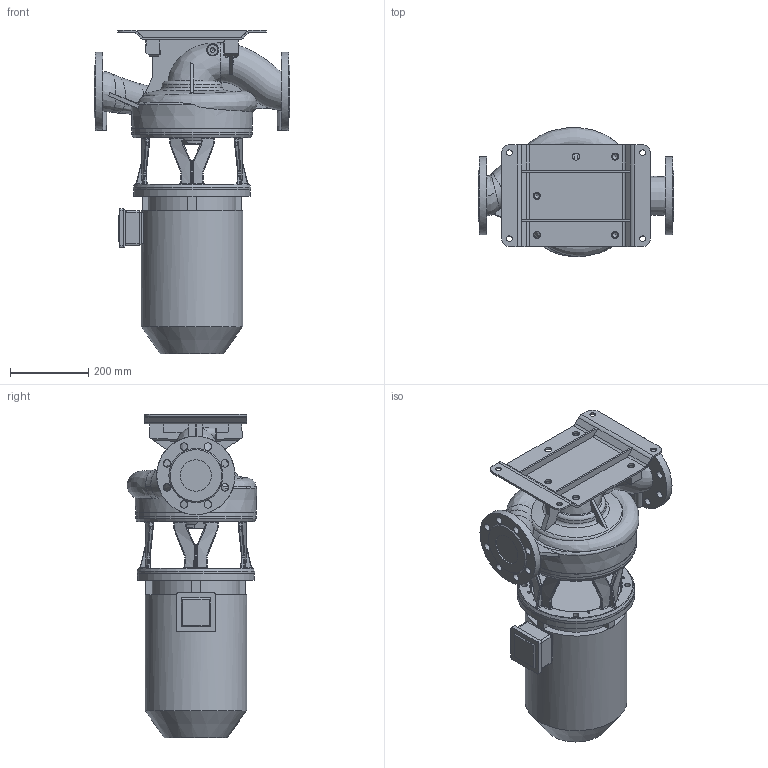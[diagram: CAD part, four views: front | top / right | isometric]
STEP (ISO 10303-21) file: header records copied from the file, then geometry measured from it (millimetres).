
FILE_DESCRIPTION (( 'STEP AP203' ), '1' );
FILE_NAME ('KI80-220_4_5,5kW.STEP', '2024-07-30T06:24:29', ( '' ), ( '' ), 'SwSTEP 2.0', 'SolidWorks 2023', '' );
FILE_SCHEMA (( 'CONFIG_CONTROL_DESIGN' ));
Length unit declared in the file: millimetre
Products named in the file (11): 440224_solid; 220609; 220529; 230572; KI80-220_4_5,5kW; 220610; 230181; 230180; 230179; 220530; 230573
Assembly tree (11 placements, depth 3):
  KI80-220_4_5,5kW
    440224_solid
    220610
      220609
    230573
      230572
    220530
      220529
    230181
      230179
      230180  x2
Bounding box: 500 x 330.67 x 827.35 mm (x, y, z)
Volume: 37491437.2 mm3; surface area: 1775478.5 mm2
Topology: 7 solids, 7 shells, 844 faces, 2192 edges, 1340 vertices
Faces by surface type: bspline 293, plane 242, cylinder 201, cone 57, torus 51
Full cylindrical faces by diameter (mm): 6 x2, 6.8 x8, 10 x4, 10.2 x8, 11.445 x1, 11.8 x3, 14 x19, 14.5 x4, 15 x8, 18 x5, 19 x16, 80 x2, 225 x1, 230 x1, 243 x1, 255 x2, 260 x1, 300 x2, 308 x2
Entity records: 70977 total; most frequent: CARTESIAN_POINT 52570, ORIENTED_EDGE 3888, DIRECTION 2953, EDGE_CURVE 1944, VERTEX_POINT 1261, AXIS2_PLACEMENT_3D 1232, EDGE_LOOP 1109, FACE_OUTER_BOUND 930
